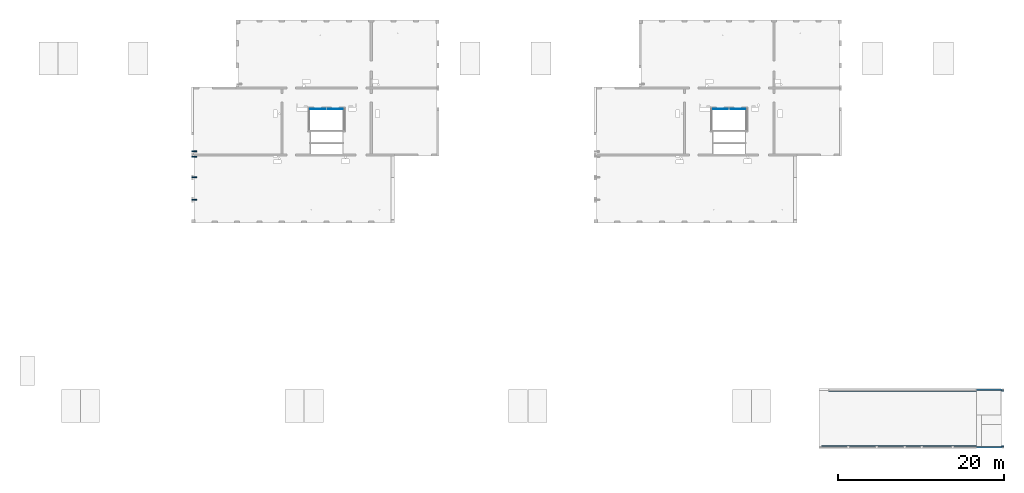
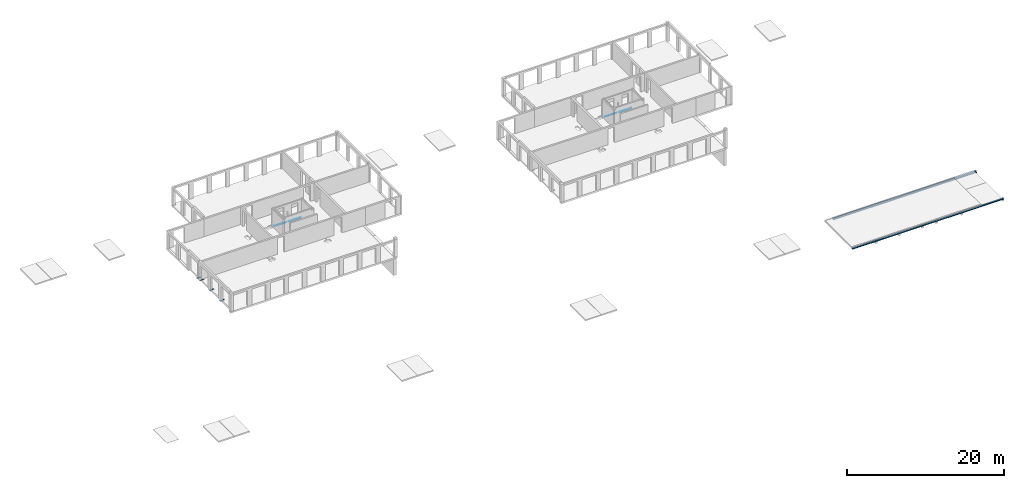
# One storey, part 3 of 14: 12 beams.
"""IFC2X3 building model written with IfcOpenShell, lengths in millimetres."""

from ifc_helpers import new_model, entity, si_unit, converted_unit, derived_unit, direction, frame, frame_2d, origin, origin_2d_with_axis, place, context, subcontext, project, spatial, polyline, rectangle, i_section, outline, extrude, source, transform, mapped, material, type_object, type_shapes, element, save


model = new_model("IFC2X3")

# Units and contexts
model_context = context("Model", 3, precision=0.01, world=origin(), true_north=direction((6.12303176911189e-17, 1.0)))
body_context = subcontext(model_context, "Body", "Model", "MODEL_VIEW")
ifc_project = project(units=[si_unit("LENGTHUNIT", "METRE", prefix="MILLI"), si_unit("AREAUNIT", "SQUARE_METRE"), si_unit("VOLUMEUNIT", "CUBIC_METRE"), converted_unit("PLANEANGLEUNIT", "DEGREE", entity("IfcRatioMeasure", 0.0174532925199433), si_unit("PLANEANGLEUNIT", "RADIAN"), dimensions=[0, 0, 0, 0, 0, 0, 0]), si_unit("MASSUNIT", "GRAM", prefix="KILO"), derived_unit("MASSDENSITYUNIT", [(si_unit("MASSUNIT", "GRAM", prefix="KILO"), 1), (si_unit("LENGTHUNIT", "METRE"), -3)]), si_unit("TIMEUNIT", "SECOND"), si_unit("FREQUENCYUNIT", "HERTZ"), si_unit("THERMODYNAMICTEMPERATUREUNIT", "DEGREE_CELSIUS"), derived_unit("THERMALTRANSMITTANCEUNIT", [(si_unit("MASSUNIT", "GRAM", prefix="KILO"), 1), (si_unit("THERMODYNAMICTEMPERATUREUNIT", "KELVIN"), -1), (si_unit("TIMEUNIT", "SECOND"), -3)]), derived_unit("VOLUMETRICFLOWRATEUNIT", [(si_unit("LENGTHUNIT", "METRE"), 3), (si_unit("TIMEUNIT", "SECOND"), -1)]), si_unit("ELECTRICCURRENTUNIT", "AMPERE"), si_unit("ELECTRICVOLTAGEUNIT", "VOLT"), si_unit("POWERUNIT", "WATT"), si_unit("FORCEUNIT", "NEWTON", prefix="KILO"), si_unit("ILLUMINANCEUNIT", "LUX"), si_unit("LUMINOUSFLUXUNIT", "LUMEN"), si_unit("LUMINOUSINTENSITYUNIT", "CANDELA"), derived_unit("USERDEFINED", [(si_unit("MASSUNIT", "GRAM", prefix="KILO"), -1), (si_unit("LENGTHUNIT", "METRE"), -2), (si_unit("TIMEUNIT", "SECOND"), 3), (si_unit("LUMINOUSFLUXUNIT", "LUMEN"), 1)]), derived_unit("LINEARVELOCITYUNIT", [(si_unit("LENGTHUNIT", "METRE"), 1), (si_unit("TIMEUNIT", "SECOND"), -1)]), si_unit("PRESSUREUNIT", "PASCAL"), derived_unit("USERDEFINED", [(si_unit("LENGTHUNIT", "METRE"), -2), (si_unit("MASSUNIT", "GRAM", prefix="KILO"), 1), (si_unit("TIMEUNIT", "SECOND"), -2)])], contexts=[model_context])

# Site, building, storey
site_placement = place(None, origin())
site = spatial("IfcSite", under=ifc_project, at=site_placement, Name="Default", CompositionType="ELEMENT")
building_placement = place(site_placement, origin())
building = spatial("IfcBuilding", under=site, at=building_placement, Name="niet gebruiken", CompositionType="ELEMENT")
storey_placement = place(building_placement, frame((0.0, 0.0, 15570.0)))
storey = spatial("IfcBuildingStorey", under=building, at=storey_placement, Name="05 vijfde verdieping", CompositionType="ELEMENT", Elevation=15570.0)

# Beams
ifc_material = material(Name="NLRS_h2_staal")
beam_type_1 = type_object("IfcBeamType", Name="NLRS_28.11_SF_WPB_stalen ligger HEB_gen:ligger HEB 200", PredefinedType="BEAM")
beam_1_placement = place(storey_placement, frame((102675.0, 1660.0, -250.0)))
element("IfcBeam", 1, at=beam_1_placement, inside=storey, type_object=beam_type_1, material=ifc_material, Name="NLRS_28.11_SF_WPB_stalen ligger HEB_gen:ligger HEB 200", ObjectType="NLRS_28.11_SF_WPB_stalen ligger HEB_gen:ligger HEB 200", context=body_context, shape_type="SweptSolid", body=[
    extrude(i_section(OverallWidth=200.0, OverallDepth=200.000000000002, WebThickness=8.99999999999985, FlangeThickness=15.0000000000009, FilletRadius=18.0000000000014, at=frame_2d((0.0, -1.35003119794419e-13), x_axis=(0.0, 1.0))), frame((0.0, 0.0, -100.0), z_axis=(1.0, 0.0, 0.0), x_axis=(0.0, 0.0, -1.0)), (0.0, 0.0, 1.0), 22285.0),
])
beam_2_placement = place(storey_placement, frame((124988.5, 8621.0, -250.0), z_axis=(0.0, 0.0, 1.0), x_axis=(-1.0, 0.0, 0.0)))
element("IfcBeam", 2, at=beam_2_placement, inside=storey, type_object=beam_type_1, material=ifc_material, Name="NLRS_28.11_SF_WPB_stalen ligger HEB_gen:ligger HEB 200", ObjectType="NLRS_28.11_SF_WPB_stalen ligger HEB_gen:ligger HEB 200", context=body_context, shape_type="SweptSolid", body=[
    extrude(i_section(OverallWidth=199.999999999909, OverallDepth=200.0, WebThickness=9.00000000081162, FlangeThickness=14.9999999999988, FilletRadius=18.0000000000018, at=frame_2d((-1.08713038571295e-12, 1.08713038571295e-12), x_axis=(0.0, 1.0))), frame((0.0, 0.0, -100.0), z_axis=(1.0, 0.0, 0.0), x_axis=(0.0, 0.0, -1.0)), (0.0, 0.0, 1.0), 21163.5000920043),
])
beam_type_2 = type_object("IfcBeamType", Name="ligger stripstaal RECT_300x10", PredefinedType="BEAM", material=ifc_material)
shared_shape_1 = source(origin(), body_context, "Body", "SweptSolid", [
    extrude(rectangle(XDim=22015.0, YDim=300.0, at=origin_2d_with_axis()), frame((0.0, 0.0, -5.0), z_axis=(0.0, 0.0, 1.0), x_axis=(-1.0, 0.0, 0.0)), (0.0, 0.0, 1.0), 9.99999999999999),
    extrude(rectangle(XDim=22015.0, YDim=300.0, at=origin_2d_with_axis()), frame((0.0, 0.0, -5.0), z_axis=(0.0, 0.0, 1.0), x_axis=(-1.0, 0.0, 0.0)), (0.0, 0.0, 1.0), 9.99999999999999),
])
type_shapes(beam_type_2, [shared_shape_1])
beam_3_placement = place(storey_placement, frame((113952.5, 1710.0, -455.0), z_axis=(0.0, 0.0, 1.0), x_axis=(-1.0, 0.0, 0.0)))
element("IfcBeam", 3, at=beam_3_placement, inside=storey, type_object=beam_type_2, material=ifc_material, Name="NLRS_28.11_SF_WPB_stalen ligger stripstaal_gen:ligger stripstaal RECT_300x10", ObjectType="ligger stripstaal RECT_300x10", context=body_context, shape_type="MappedRepresentation", body=[
    mapped(shared_shape_1, transform((0.0, 0.0, 0.0), scale=1.0)),
])
beam_type_3 = type_object("IfcBeamType", Name="ligger stripstaal RECT_300x10", PredefinedType="BEAM", material=ifc_material)
shared_shape_2 = source(origin(), body_context, "Body", "SweptSolid", [
    extrude(rectangle(XDim=21163.5000920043, YDim=300.0, at=origin_2d_with_axis()), frame((0.0, 0.0, -5.0), z_axis=(0.0, 0.0, 1.0), x_axis=(-1.0, 0.0, 0.0)), (0.0, 0.0, 1.0), 9.99999999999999),
    extrude(rectangle(XDim=21163.5000920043, YDim=300.0, at=origin_2d_with_axis()), frame((0.0, 0.0, -5.0), z_axis=(0.0, 0.0, 1.0), x_axis=(-1.0, 0.0, 0.0)), (0.0, 0.0, 1.0), 9.99999999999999),
])
type_shapes(beam_type_3, [shared_shape_2])
beam_4_placement = place(storey_placement, frame((114406.749953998, 8571.0, -455.0)))
element("IfcBeam", 4, at=beam_4_placement, inside=storey, type_object=beam_type_3, material=ifc_material, Name="NLRS_28.11_SF_WPB_stalen ligger stripstaal_gen:ligger stripstaal RECT_300x10", ObjectType="ligger stripstaal RECT_300x10", context=body_context, shape_type="MappedRepresentation", body=[
    mapped(shared_shape_2, transform((0.0, 0.0, 0.0), scale=1.0)),
])
beam_type_4 = type_object("IfcBeamType", Name="ligger stripstaal RECT_120x10", PredefinedType="BEAM", material=ifc_material)
shared_shape_3 = source(origin(), body_context, "Body", "SweptSolid", [
    extrude(rectangle(XDim=599.999999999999, YDim=120.0, at=origin_2d_with_axis()), frame((0.0, 0.0, -5.0), z_axis=(0.0, 0.0, 1.0), x_axis=(-1.0, 0.0, 0.0)), (0.0, 0.0, 1.0), 9.99999999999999),
    extrude(rectangle(XDim=599.999999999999, YDim=120.0, at=origin_2d_with_axis()), frame((0.0, 0.0, -5.0), z_axis=(0.0, 0.0, 1.0), x_axis=(-1.0, 0.0, 0.0)), (0.0, 0.0, 1.0), 9.99999999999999),
])
type_shapes(beam_type_4, [shared_shape_3])
for number, where, name in (
    (5, (27235.0, 31556.0, -115.0), "NLRS_28.11_SF_WPB_stalen ligger stripstaal_gen:ligger stripstaal RECT_120x10"),
    (6, (27235.0, 34256.0, -115.0), "NLRS_28.11_SF_WPB_stalen ligger stripstaal_gen:ligger stripstaal RECT_120x10"),
    (7, (27235.0, 36766.0, -115.0), "NLRS_28.11_SF_WPB_stalen ligger stripstaal_gen:ligger stripstaal RECT_120x10"),
):
    element("IfcBeam", number, at=place(storey_placement, frame(where)), inside=storey, type_object=beam_type_4, material=ifc_material, Name=name, ObjectType="ligger stripstaal RECT_120x10", context=body_context, shape_type="MappedRepresentation", body=[
        mapped(shared_shape_3, transform((0.0, 0.0, 0.0), scale=1.0)),
    ])
beam_type_5 = type_object("IfcBeamType", Name="NLRS_28.11_SF_WPB_Halfen 40-22_gen:ligger stripstaal RECT_100x10", PredefinedType="BEAM")
beam_5_placement = place(storey_placement, frame((41264.9998491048, 42496.0, -160.0)))
element("IfcBeam", 8, at=beam_5_placement, inside=storey, type_object=beam_type_5, material=ifc_material, Name="NLRS_28.11_SF_WPB_Halfen 40-22_gen:ligger stripstaal RECT_100x10", ObjectType="NLRS_28.11_SF_WPB_Halfen 40-22_gen:ligger stripstaal RECT_100x10", context=body_context, shape_type="SweptSolid", body=[
    extrude(outline(polyline([(-20.0, -8.0), (-9.0, -8.0), (-9.0, 0.0), (-11.0, 0.0), (-11.0, -6.0), (-18.0, -6.0), (-18.0, 13.0), (18.0, 13.0), (18.0, -6.0), (11.0, -6.0), (11.0, 0.0), (9.0, 0.0), (9.0, -8.0), (20.0, -8.0), (20.0, 15.0), (-20.0, 15.0), (-20.0, -8.0)])), frame((0.0, 8.0, 20.0), z_axis=(1.0, 0.0, 0.0), x_axis=(0.0, 0.0, -1.0)), (0.0, 0.0, 1.0), 1760.00000000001),
])
beam_6_placement = place(storey_placement, frame((89865.0, 42496.0, -160.0)))
element("IfcBeam", 9, at=beam_6_placement, inside=storey, type_object=beam_type_5, material=ifc_material, Name="NLRS_28.11_SF_WPB_Halfen 40-22_gen:ligger stripstaal RECT_100x10", ObjectType="NLRS_28.11_SF_WPB_Halfen 40-22_gen:ligger stripstaal RECT_100x10", context=body_context, shape_type="SweptSolid", body=[
    extrude(outline(polyline([(-20.0, -8.0), (-9.0, -8.0), (-9.0, 0.0), (-11.0, 0.0), (-11.0, -6.0), (-18.0, -6.0), (-18.0, 13.0), (18.0, 13.0), (18.0, -6.0), (11.0, -6.0), (11.0, 0.0), (9.0, 0.0), (9.0, -8.0), (20.0, -8.0), (20.0, 15.0), (-20.0, 15.0), (-20.0, -8.0)])), frame((0.0, 8.0, 20.0), z_axis=(1.0, 0.0, 0.0), x_axis=(0.0, 0.0, -1.0)), (0.0, 0.0, 1.0), 1760.00000000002),
])
beam_7_placement = place(storey_placement, frame((43374.999849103, 42496.0, -160.0)))
element("IfcBeam", 10, at=beam_7_placement, inside=storey, type_object=beam_type_5, material=ifc_material, Name="NLRS_28.11_SF_WPB_Halfen 40-22_gen:ligger stripstaal RECT_100x10", ObjectType="NLRS_28.11_SF_WPB_Halfen 40-22_gen:ligger stripstaal RECT_100x10", context=body_context, shape_type="SweptSolid", body=[
    extrude(outline(polyline([(-20.0, -8.0), (-9.0, -8.0), (-9.0, 0.0), (-11.0, 0.0), (-11.0, -6.0), (-18.0, -6.0), (-18.0, 13.0), (18.0, 13.0), (18.0, -6.0), (11.0, -6.0), (11.0, 0.0), (9.0, 0.0), (9.0, -8.0), (20.0, -8.0), (20.0, 15.0), (-20.0, 15.0), (-20.0, -8.0)])), frame((0.0, 8.0, 20.0), z_axis=(1.0, 0.0, 0.0), x_axis=(0.0, 0.0, -1.0)), (0.0, 0.0, 1.0), 1760.00000000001),
])
beam_8_placement = place(storey_placement, frame((91975.0, 42496.0, -160.0)))
element("IfcBeam", 11, at=beam_8_placement, inside=storey, type_object=beam_type_5, material=ifc_material, Name="NLRS_28.11_SF_WPB_Halfen 40-22_gen:ligger stripstaal RECT_100x10", ObjectType="NLRS_28.11_SF_WPB_Halfen 40-22_gen:ligger stripstaal RECT_100x10", context=body_context, shape_type="SweptSolid", body=[
    extrude(outline(polyline([(-20.0, -8.0), (-9.0, -8.0), (-9.0, 0.0), (-11.0, 0.0), (-11.0, -6.0), (-18.0, -6.0), (-18.0, 13.0), (18.0, 13.0), (18.0, -6.0), (11.0, -6.0), (11.0, 0.0), (9.0, 0.0), (9.0, -8.0), (20.0, -8.0), (20.0, 15.0), (-20.0, 15.0), (-20.0, -8.0)])), frame((0.0, 8.0, 20.0), z_axis=(1.0, 0.0, 0.0), x_axis=(0.0, 0.0, -1.0)), (0.0, 0.0, 1.0), 1760.0),
])
beam_type_6 = type_object("IfcBeamType", Name="ligger stripstaal RECT_120x10", PredefinedType="BEAM", material=ifc_material)
shared_shape_4 = source(origin(), body_context, "Body", "SweptSolid", [
    extrude(rectangle(XDim=120.0, YDim=600.000000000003, at=origin_2d_with_axis()), frame((0.0, 0.0, -5.0), z_axis=(0.0, 0.0, 1.0), x_axis=(0.0, 1.0, 0.0)), (0.0, 0.0, 1.0), 9.99999999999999),
    extrude(rectangle(XDim=120.0, YDim=600.000000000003, at=origin_2d_with_axis()), frame((0.0, 0.0, -5.0), z_axis=(0.0, 0.0, 1.0), x_axis=(0.0, 1.0, 0.0)), (0.0, 0.0, 1.0), 9.99999999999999),
])
type_shapes(beam_type_6, [shared_shape_4])
beam_9_placement = place(storey_placement, frame((27235.0, 37386.0, -115.0)))
element("IfcBeam", 12, at=beam_9_placement, inside=storey, type_object=beam_type_6, material=ifc_material, Name="NLRS_28.11_SF_WPB_stalen ligger stripstaal_gen:ligger stripstaal RECT_120x10", ObjectType="ligger stripstaal RECT_120x10", context=body_context, shape_type="MappedRepresentation", body=[
    mapped(shared_shape_4, transform((0.0, 0.0, 0.0), scale=1.0)),
])

save(model, "model.ifc")
